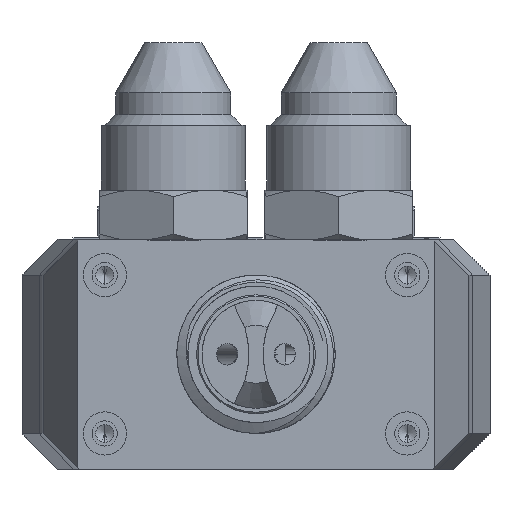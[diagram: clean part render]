
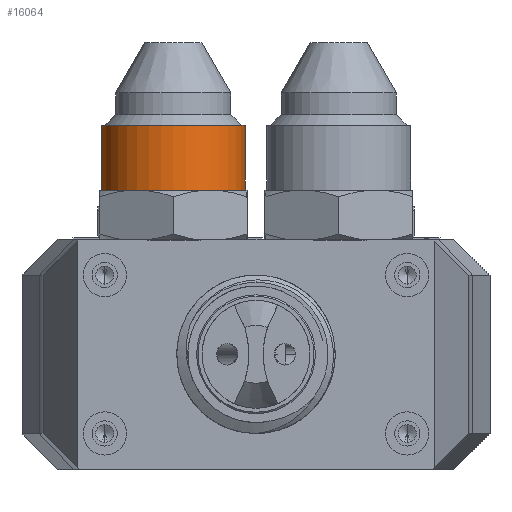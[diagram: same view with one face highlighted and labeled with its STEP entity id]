
A CAD part, front view. The second image highlights one B-rep face of the part: STEP entity #16064.
In plain terms, the highlighted cylindrical face has radius 10 mm (diameter 20 mm), a partial arc.
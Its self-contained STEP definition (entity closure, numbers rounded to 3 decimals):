
#830 = DIRECTION ( 'NONE',  ( 0., 0., -1. ) ) ;
#1860 = CARTESIAN_POINT ( 'NONE',  ( -107.429, -135.418, 1021.303 ) ) ;
#3851 = ORIENTED_EDGE ( 'NONE', *, *, #56288, .T. ) ;
#4309 = VERTEX_POINT ( 'NONE', #34777 ) ;
#7299 = LINE ( 'NONE', #39798, #50705 ) ;
#9032 = DIRECTION ( 'NONE',  ( 1., 0., 0. ) ) ;
#11894 = CIRCLE ( 'NONE', #44969, 10. ) ;
#12188 = LINE ( 'NONE', #54109, #45041 ) ;
#12747 = DIRECTION ( 'NONE',  ( 1., 0., 0. ) ) ;
#13576 = ORIENTED_EDGE ( 'NONE', *, *, #15818, .T. ) ;
#14339 = CARTESIAN_POINT ( 'NONE',  ( -97.429, -135.418, 1052.575 ) ) ;
#14934 = FACE_OUTER_BOUND ( 'NONE', #27964, .T. ) ;
#15818 = EDGE_CURVE ( 'NONE', #16590, #41090, #11894, .T. ) ;
#16064 = ADVANCED_FACE ( 'NONE', ( #14934 ), #49592, .T. ) ;
#16590 = VERTEX_POINT ( 'NONE', #1860 ) ;
#16767 = DIRECTION ( 'NONE',  ( 1., 0., 0. ) ) ;
#17175 = CARTESIAN_POINT ( 'NONE',  ( -97.429, -135.418, 1030.303 ) ) ;
#23925 = AXIS2_PLACEMENT_3D ( 'NONE', #17175, #830, #12747 ) ;
#24077 = EDGE_CURVE ( 'NONE', #4309, #26571, #51296, .T. ) ;
#26571 = VERTEX_POINT ( 'NONE', #48078 ) ;
#27964 = EDGE_LOOP ( 'NONE', ( #31414, #13576, #3851, #28273 ) ) ;
#28273 = ORIENTED_EDGE ( 'NONE', *, *, #24077, .T. ) ;
#30235 = DIRECTION ( 'NONE',  ( 0., 0., 1. ) ) ;
#31414 = ORIENTED_EDGE ( 'NONE', *, *, #32014, .F. ) ;
#32014 = EDGE_CURVE ( 'NONE', #16590, #26571, #12188, .T. ) ;
#32114 = CARTESIAN_POINT ( 'NONE',  ( -87.429, -135.418, 1021.303 ) ) ;
#34777 = CARTESIAN_POINT ( 'NONE',  ( -87.429, -135.418, 1030.303 ) ) ;
#35674 = CARTESIAN_POINT ( 'NONE',  ( -97.429, -135.418, 1021.303 ) ) ;
#39798 = CARTESIAN_POINT ( 'NONE',  ( -87.429, -135.418, 1052.575 ) ) ;
#41090 = VERTEX_POINT ( 'NONE', #32114 ) ;
#43115 = AXIS2_PLACEMENT_3D ( 'NONE', #14339, #49882, #9032 ) ;
#44557 = DIRECTION ( 'NONE',  ( 0., 0., 1. ) ) ;
#44969 = AXIS2_PLACEMENT_3D ( 'NONE', #35674, #44557, #16767 ) ;
#45041 = VECTOR ( 'NONE', #30235, 1000. ) ;
#48078 = CARTESIAN_POINT ( 'NONE',  ( -107.429, -135.418, 1030.303 ) ) ;
#49592 = CYLINDRICAL_SURFACE ( 'NONE', #43115, 10. ) ;
#49882 = DIRECTION ( 'NONE',  ( 0., 0., 1. ) ) ;
#50705 = VECTOR ( 'NONE', #52860, 1000. ) ;
#51296 = CIRCLE ( 'NONE', #23925, 10. ) ;
#52860 = DIRECTION ( 'NONE',  ( 0., 0., 1. ) ) ;
#54109 = CARTESIAN_POINT ( 'NONE',  ( -107.429, -135.418, 1052.575 ) ) ;
#56288 = EDGE_CURVE ( 'NONE', #41090, #4309, #7299, .T. ) ;
